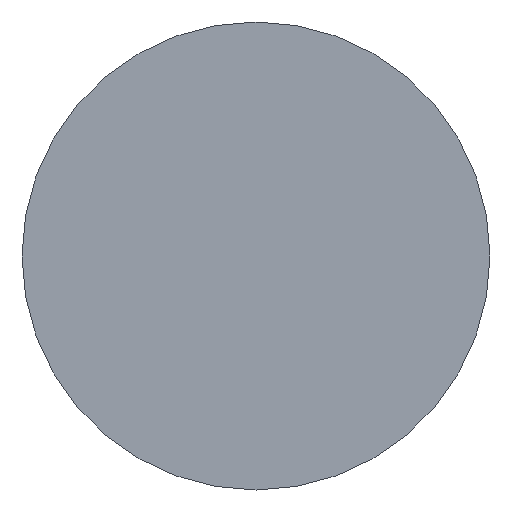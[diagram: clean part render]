
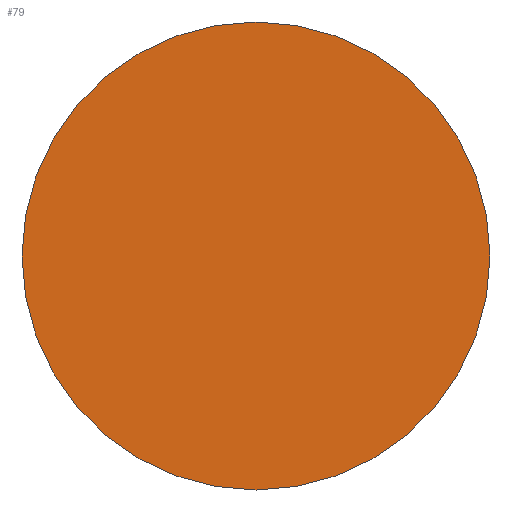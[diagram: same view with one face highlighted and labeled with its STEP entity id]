
A CAD part, front view. The second image highlights one B-rep face of the part: STEP entity #79.
In plain terms, the highlighted free-form (B-spline) face has degree [1, 1] with [2, 2] control points.
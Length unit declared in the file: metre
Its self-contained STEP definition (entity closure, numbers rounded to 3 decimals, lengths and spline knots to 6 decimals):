
#12=B_SPLINE_SURFACE_WITH_KNOTS('',1,1,((#159,#160),(#161,#162)),
 .PLANE_SURF.,.F.,.F.,.F.,(2,2),(2,2),(0.041942,0.956121),
(0.045438,0.957268),.PIECEWISE_BEZIER_KNOTS.);
#30=ORIENTED_EDGE('',*,*,#46,.T.);
#31=ORIENTED_EDGE('',*,*,#42,.T.);
#42=EDGE_CURVE('',#52,#53,#56,.T.);
#46=EDGE_CURVE('',#53,#52,#58,.T.);
#52=VERTEX_POINT('',#143);
#53=VERTEX_POINT('',#144);
#56=CIRCLE('',#97,0.006);
#58=CIRCLE('',#99,0.006);
#63=EDGE_LOOP('',(#30,#31));
#69=FACE_BOUND('',#63,.T.);
#79=ADVANCED_FACE('',(#69),#12,.T.);
#97=AXIS2_PLACEMENT_3D('',#142,#107,#108);
#99=AXIS2_PLACEMENT_3D('',#158,#111,#112);
#107=DIRECTION('',(0.,-1.,0.));
#108=DIRECTION('',(0.,0.,-1.));
#111=DIRECTION('',(0.,-1.,0.));
#112=DIRECTION('',(0.,0.,-1.));
#142=CARTESIAN_POINT('',(0.03171,-0.25,-0.02655));
#143=CARTESIAN_POINT('',(0.03171,-0.25,-0.03255));
#144=CARTESIAN_POINT('',(0.03171,-0.25,-0.02055));
#158=CARTESIAN_POINT('',(0.03171,-0.25,-0.02655));
#159=CARTESIAN_POINT('',(0.025592,-0.25,-0.032623));
#160=CARTESIAN_POINT('',(0.025592,-0.25,-0.020442));
#161=CARTESIAN_POINT('',(0.037804,-0.25,-0.032623));
#162=CARTESIAN_POINT('',(0.037804,-0.25,-0.020442));
